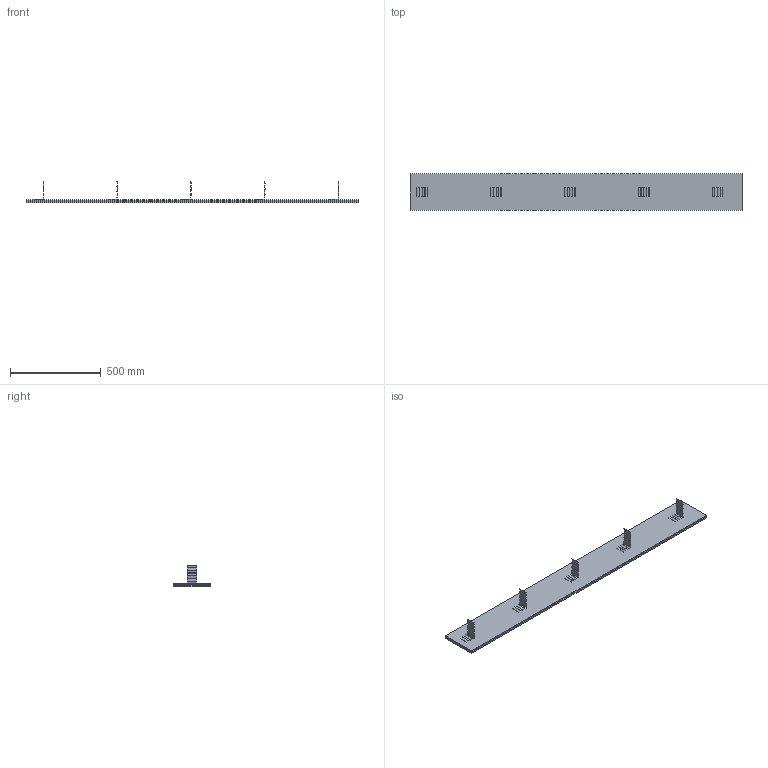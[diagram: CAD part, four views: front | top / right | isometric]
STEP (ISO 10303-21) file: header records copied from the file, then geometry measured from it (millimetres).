
FILE_DESCRIPTION(/* description */ (''),/* implementation_level */ '2;1');
FILE_NAME(/* name */ 'C:\001_Work\Designs\SWW\SWW 8 x 72.stp',/* time_stamp */ '2015-08-12T14:29:02-04:00',/* author */ ('rramoutar'),/* organization */ (''),/* preprocessor_version */ 'ST-DEVELOPER v15.6',/* originating_system */ 'Autodesk Inventor 2015',/* authorisation */ '');
FILE_SCHEMA (('AUTOMOTIVE_DESIGN { 1 0 10303 214 3 1 1 }'));
Length unit declared in the file: inch
Products named in the file (4): SWW 8 x 72 SHEET METAL (A-14177-1); SWW 8 x 72 WAFFLE PAD (A-14177-1); SWW 8 x 72 BRICK TIES (A-14177-1); SWW 8 x 72 WALL ISOLATOR (A-14177-1)
Assembly tree (8 placements, depth 2):
  SWW 8 x 72 WALL ISOLATOR (A-14177-1)
    SWW 8 x 72 SHEET METAL (A-14177-1)
    SWW 8 x 72 WAFFLE PAD (A-14177-1)  x2
    SWW 8 x 72 BRICK TIES (A-14177-1)  x5
Bounding box: 1828.8 x 203.2 x 121.11 mm (x, y, z)
Volume: 6520752.7 mm3; surface area: 2385404.1 mm2
Topology: 8 solids, 8 shells, 448 faces, 896 edges, 464 vertices
Faces by surface type: plane 348, cylinder 100
Entity records: 2555 total; most frequent: DIRECTION 456, CARTESIAN_POINT 410, ORIENTED_EDGE 392, EDGE_CURVE 196, LINE 156, VECTOR 156, AXIS2_PLACEMENT_3D 150, VERTEX_POINT 104
